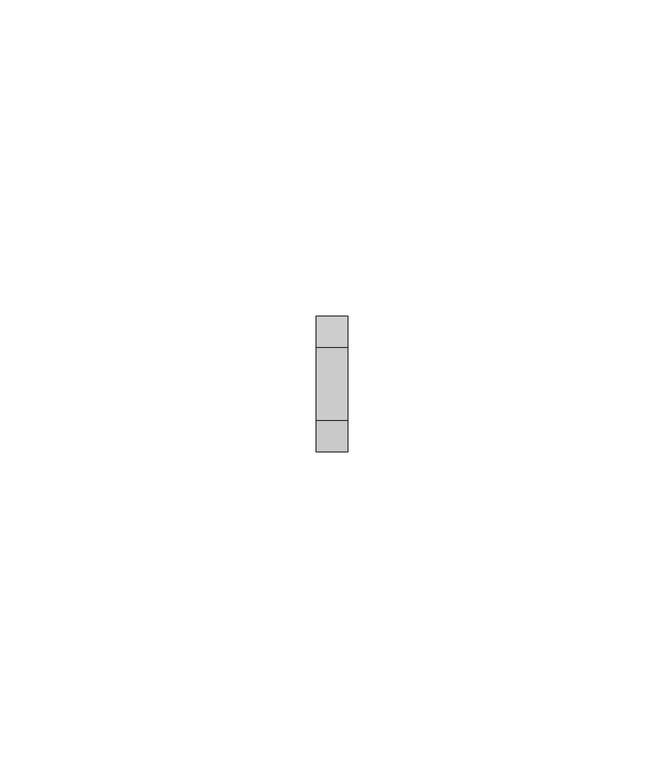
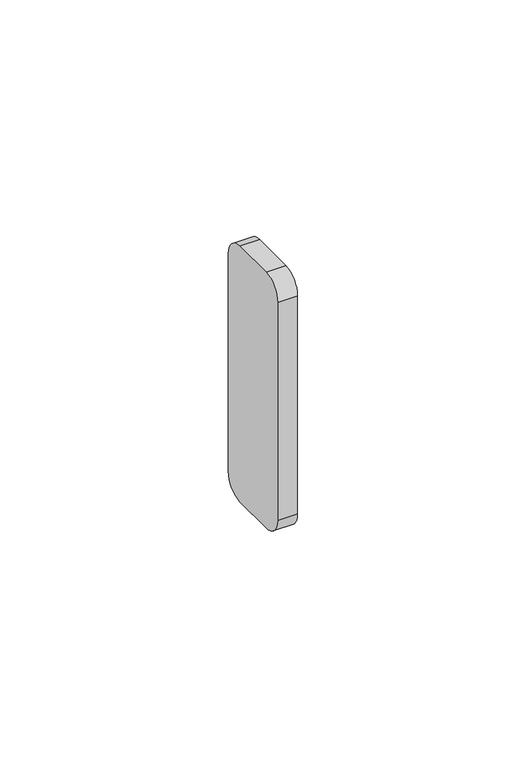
"""IFC4 building model written with IfcOpenShell, lengths in millimetres: proxy geometry, Odbojniki - OPW20R : Odbojniki - OPW20R."""

from ifc_helpers import new_model, si_unit, point, frame, frame_2d, origin, place, context, project, spatial, polyline, circle_curve, trimmed, segment, composite_curve, outline, extrude, source, transform, mapped, element, save


def generic_models_3c172368(model_context):
    return source(origin(), model_context, "Body", "SweptSolid", [
        extrude(outline(composite_curve([segment(trimmed(circle_curve(frame_2d((-70.3, -39.25)), 5.0), [point((-70.3, -44.25))], [point((-75.3, -39.25))], False, "CARTESIAN"), True, "CONTINUOUS"), segment(polyline([(-75.3, -39.25), (-75.3, 19.05)]), True, "CONTINUOUS"), segment(trimmed(circle_curve(frame_2d((-70.3, 19.05)), 5.0), [point((-75.3, 19.05))], [point((-70.3, 24.05))], False, "CARTESIAN"), True, "CONTINUOUS"), segment(polyline([(-70.3, 24.05), (-58.8, 24.05)]), True, "CONTINUOUS"), segment(trimmed(circle_curve(frame_2d((-58.8, 19.05)), 5.0), [point((-58.8, 24.05))], [point((-53.8, 19.05))], False, "CARTESIAN"), True, "CONTINUOUS"), segment(polyline([(-53.8, 19.05), (-53.8, -39.25)]), True, "CONTINUOUS"), segment(trimmed(circle_curve(frame_2d((-58.8, -39.25)), 5.0), [point((-53.8, -39.25))], [point((-58.8, -44.25))], False, "CARTESIAN"), True, "CONTINUOUS"), segment(polyline([(-58.8, -44.25), (-70.3, -44.25)]), True, "CONTINUOUS")], self_intersect=False)), frame((-2.5, 0.0, 0.0), z_axis=(1.0, 0.0, 0.0), x_axis=(0.0, 1.0, 0.0)), (0.0, 0.0, 1.0), 5.0),
    ])


if __name__ == "__main__":
    model = new_model("IFC4")
    model_context = context("Model", 3, world=origin())
    ifc_project = project(units=[si_unit("LENGTHUNIT", "METRE", prefix="MILLI")], contexts=[model_context])
    site = spatial("IfcSite", under=ifc_project)
    building = spatial("IfcBuilding", under=site)
    placement = place(None, origin())
    generic_models_shape = generic_models_3c172368(model_context)
    element("IfcBuildingElementProxy", 1, Name="Odbojniki - OPW20R : Odbojniki - OPW20R", ObjectType="Odbojniki - OPW20R : Odbojniki - OPW20R", at=placement, inside=building, context=model_context, shape_type="MappedRepresentation", body=[
        mapped(generic_models_shape, transform((0.0, 0.0, 0.0), x_axis=(1.0, 0.0, 0.0), y_axis=(0.0, 1.0, 0.0), z_axis=(0.0, 0.0, 1.0))),
    ])
    save(model, "model.ifc")
